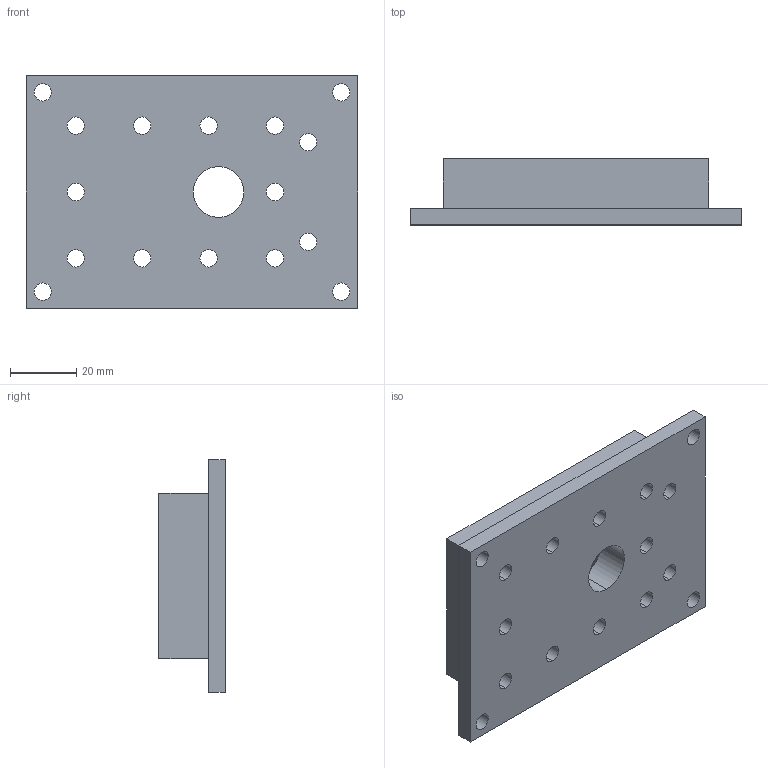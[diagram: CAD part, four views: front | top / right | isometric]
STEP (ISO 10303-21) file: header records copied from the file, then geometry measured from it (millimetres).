
FILE_DESCRIPTION (( 'STEP AP214' ), '1' );
FILE_NAME ('CESV-B.STEP', '2019-05-17T11:34:09', ( '' ), ( '' ), 'SwSTEP 2.0', 'SolidWorks 2018', '' );
FILE_SCHEMA (( 'AUTOMOTIVE_DESIGN' ));
Length unit declared in the file: millimetre
Products named in the file (1): CESV-B
Bounding box: 100 x 20 x 70 mm (x, y, z)
Volume: 72651.8 mm3; surface area: 24881.6 mm2
Topology: 1 solids, 1 shells, 50 faces, 138 edges, 92 vertices
Faces by surface type: cylinder 34, plane 16
Entity records: 2260 total; most frequent: DIRECTION 308, CARTESIAN_POINT 281, ORIENTED_EDGE 276, EDGE_CURVE 138, AXIS2_PLACEMENT_3D 119, VERTEX_POINT 92, EDGE_LOOP 86, VECTOR 70
